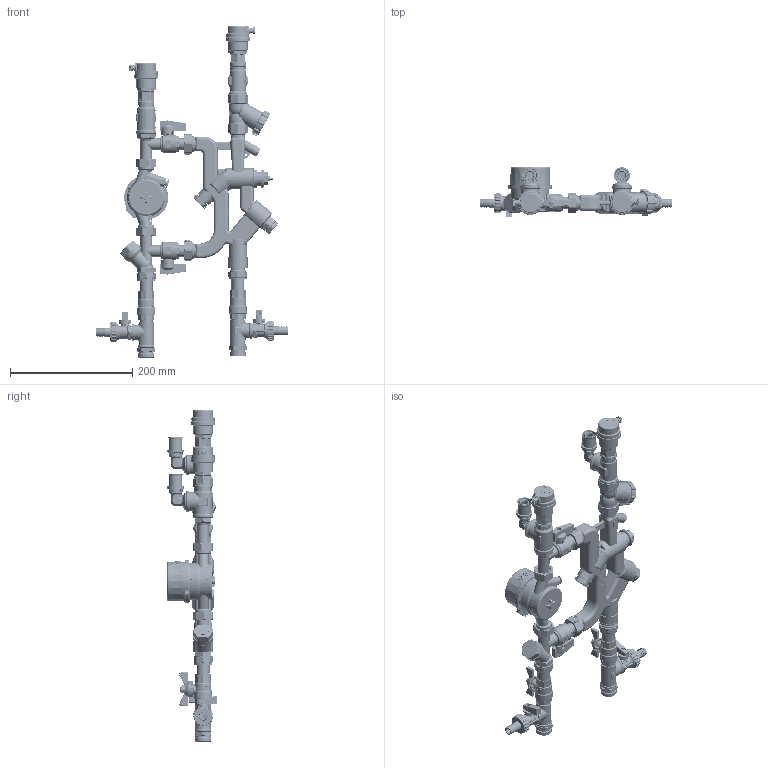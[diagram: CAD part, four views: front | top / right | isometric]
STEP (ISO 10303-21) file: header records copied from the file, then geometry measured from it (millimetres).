
FILE_DESCRIPTION(('TFLEX Exchange Step'),'2;1');
FILE_NAME('VT.IVCM.06RS.R.R.stp', '2023-11-17T17:47:16+03:00',('denis'),('Unknown organisation'),'TFLEX Exchange 2023.0','T-FLEX CAD','Unknown authorisation');
FILE_SCHEMA( ('AUTOMOTIVE_DESIGN { 1 0 10303 214 1 1 1 1 }') );
Length unit declared in the file: millimetre
Products named in the file (1): VT.IVCM.06RS.R.R
Bounding box: 315.4 x 82.1 x 543.21 mm (x, y, z)
Volume: 1052633.1 mm3; surface area: 402722.9 mm2
Topology: 104 solids, 106 shells, 14929 faces, 38660 edges, 24462 vertices
Faces by surface type: cylinder 4554, plane 4408, bspline 3948, torus 1198, cone 487, sphere 334
Full cylindrical faces by diameter (mm): 2 x3, 2.1 x3, 2.3 x2, 3.5 x2, 4 x3, 4.5 x2, 5 x5, 5.6 x3, 6 x5, 7 x4, 8 x7, 8.5 x3, 8.9 x2, 8.917 x2, 9 x3, 10 x4, 11 x4, 11.1 x2, 12 x5, 12.5 x6, 13 x1, 13.5 x6, 13.9 x2, 14 x2, 14.5 x4, 14.6 x2, 15 x16, 15.5 x2, 15.729 x2, 15.9 x2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
Entity records: 684157 total; most frequent: CARTESIAN_POINT 363020, ORIENTED_EDGE 76964, DIRECTION 49663, EDGE_CURVE 38482, VERTEX_POINT 24456, AXIS2_PLACEMENT_3D 17684, B_SPLINE_CURVE_WITH_KNOTS 16799, EDGE_LOOP 15822
